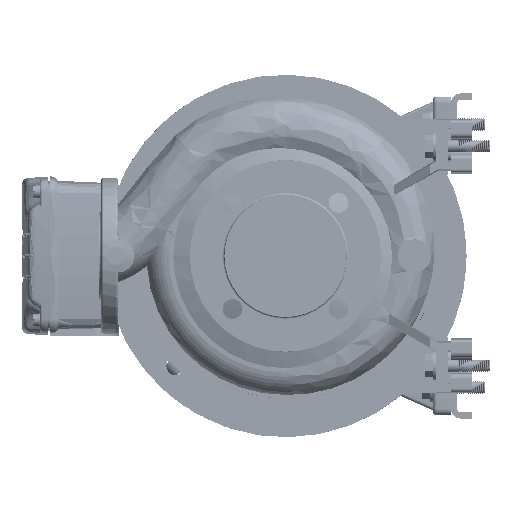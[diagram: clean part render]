
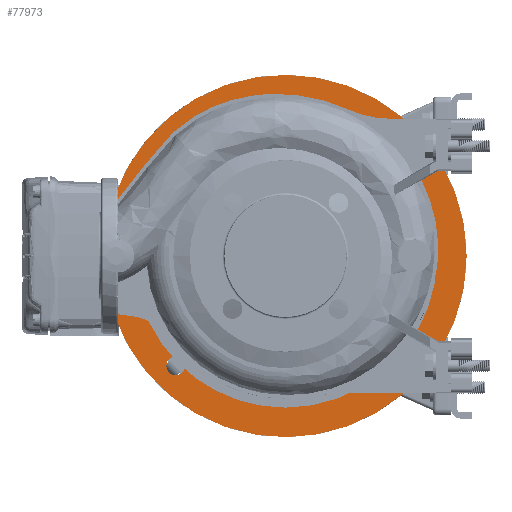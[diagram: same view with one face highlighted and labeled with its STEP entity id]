
A CAD part, left-side view. The second image highlights one B-rep face of the part: STEP entity #77973.
In plain terms, the highlighted planar face has unit normal (-1, 0, 0).
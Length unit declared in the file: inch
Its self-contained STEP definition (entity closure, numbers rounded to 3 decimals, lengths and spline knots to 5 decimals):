
#2432 = VERTEX_POINT ( 'NONE', #157049 ) ;
#3138 = CARTESIAN_POINT ( 'NONE',  ( 8.25941, 13.3386, 7.17662 ) ) ;
#4709 = ORIENTED_EDGE ( 'NONE', *, *, #20756, .T. ) ;
#5355 = DIRECTION ( 'NONE',  ( -1., 0., 0. ) ) ;
#7170 = CIRCLE ( 'NONE', #164534, 5.02675 ) ;
#7363 = ORIENTED_EDGE ( 'NONE', *, *, #147604, .T. ) ;
#8231 = EDGE_LOOP ( 'NONE', ( #103370, #57713 ) ) ;
#9100 = DIRECTION ( 'NONE',  ( 0., 0., -1. ) ) ;
#10065 = AXIS2_PLACEMENT_3D ( 'NONE', #41170, #213034, #144332 ) ;
#10208 = CIRCLE ( 'NONE', #10065, 0.35433 ) ;
#15244 = FACE_OUTER_BOUND ( 'NONE', #8231, .T. ) ;
#15247 = AXIS2_PLACEMENT_3D ( 'NONE', #135279, #206278, #48203 ) ;
#17006 = CARTESIAN_POINT ( 'NONE',  ( 8.25941, 9.16399, 16.38012 ) ) ;
#17849 = DIRECTION ( 'NONE',  ( 0., 0., -1. ) ) ;
#19015 = CARTESIAN_POINT ( 'NONE',  ( 8.25941, 13.3386, 15.53012 ) ) ;
#20756 = EDGE_CURVE ( 'NONE', #90515, #145406, #7170, .T. ) ;
#24279 = CARTESIAN_POINT ( 'NONE',  ( 8.25941, 4.98938, 7.53095 ) ) ;
#24517 = VERTEX_POINT ( 'NONE', #24279 ) ;
#27100 = AXIS2_PLACEMENT_3D ( 'NONE', #52267, #174892, #17849 ) ;
#30693 = EDGE_CURVE ( 'NONE', #224288, #2432, #125929, .T. ) ;
#32029 = DIRECTION ( 'NONE',  ( 0., 0., -1. ) ) ;
#32357 = AXIS2_PLACEMENT_3D ( 'NONE', #212989, #93853, #91559 ) ;
#33791 = DIRECTION ( 'NONE',  ( 1., 0., 0. ) ) ;
#35609 = CIRCLE ( 'NONE', #189407, 0.35433 ) ;
#36051 = DIRECTION ( 'NONE',  ( 0., 0., 1. ) ) ;
#41170 = CARTESIAN_POINT ( 'NONE',  ( 8.25941, 13.3386, 15.53012 ) ) ;
#43317 = CARTESIAN_POINT ( 'NONE',  ( 8.25941, 13.3386, 15.17579 ) ) ;
#44201 = ORIENTED_EDGE ( 'NONE', *, *, #115915, .T. ) ;
#45370 = CARTESIAN_POINT ( 'NONE',  ( 8.25941, 4.18012, 10.69818 ) ) ;
#47610 = ORIENTED_EDGE ( 'NONE', *, *, #179063, .F. ) ;
#48203 = DIRECTION ( 'NONE',  ( 0., 0., -1. ) ) ;
#49644 = VERTEX_POINT ( 'NONE', #177693 ) ;
#49663 = EDGE_LOOP ( 'NONE', ( #47610, #118018 ) ) ;
#51027 = VERTEX_POINT ( 'NONE', #119160 ) ;
#51912 = DIRECTION ( 'NONE',  ( 0., 0., 1. ) ) ;
#52267 = CARTESIAN_POINT ( 'NONE',  ( 8.25941, 9.16399, 11.35337 ) ) ;
#57713 = ORIENTED_EDGE ( 'NONE', *, *, #211803, .F. ) ;
#59426 = AXIS2_PLACEMENT_3D ( 'NONE', #118706, #64841, #132457 ) ;
#60645 = EDGE_CURVE ( 'NONE', #145406, #179139, #154100, .T. ) ;
#62487 = VERTEX_POINT ( 'NONE', #169414 ) ;
#63885 = DIRECTION ( 'NONE',  ( 1., 0., 0. ) ) ;
#64841 = DIRECTION ( 'NONE',  ( -1., 0., 0. ) ) ;
#67402 = DIRECTION ( 'NONE',  ( 0., 0., 1. ) ) ;
#68255 = AXIS2_PLACEMENT_3D ( 'NONE', #84476, #63885, #115508 ) ;
#77731 = ORIENTED_EDGE ( 'NONE', *, *, #60645, .T. ) ;
#77973 = ADVANCED_FACE ( 'NONE', ( #15244, #192844, #141261, #176751, #159569, #87407 ), #85153, .T. ) ;
#79877 = CARTESIAN_POINT ( 'NONE',  ( 8.25941, 4.98938, 6.82229 ) ) ;
#81264 = CARTESIAN_POINT ( 'NONE',  ( 8.25941, 9.16399, 11.35337 ) ) ;
#84476 = CARTESIAN_POINT ( 'NONE',  ( 8.25941, 4.98938, 7.17662 ) ) ;
#84589 = DIRECTION ( 'NONE',  ( 1., 0., 0. ) ) ;
#85153 = PLANE ( 'NONE',  #202393 ) ;
#87369 = CIRCLE ( 'NONE', #134980, 0.35433 ) ;
#87407 = FACE_BOUND ( 'NONE', #89829, .T. ) ;
#88628 = CARTESIAN_POINT ( 'NONE',  ( 8.25941, 4.18012, 12.00856 ) ) ;
#89583 = EDGE_CURVE ( 'NONE', #62487, #213425, #87369, .T. ) ;
#89829 = EDGE_LOOP ( 'NONE', ( #77731, #153376, #218978, #4709 ) ) ;
#90515 = VERTEX_POINT ( 'NONE', #17006 ) ;
#90679 = VERTEX_POINT ( 'NONE', #79877 ) ;
#91501 = AXIS2_PLACEMENT_3D ( 'NONE', #3138, #156785, #226643 ) ;
#91559 = DIRECTION ( 'NONE',  ( 0., 0., -1. ) ) ;
#93853 = DIRECTION ( 'NONE',  ( 1., 0., 0. ) ) ;
#103370 = ORIENTED_EDGE ( 'NONE', *, *, #30693, .F. ) ;
#115030 = EDGE_CURVE ( 'NONE', #51027, #206248, #35609, .T. ) ;
#115508 = DIRECTION ( 'NONE',  ( 0., 0., 1. ) ) ;
#115915 = EDGE_CURVE ( 'NONE', #90679, #24517, #123633, .T. ) ;
#116559 = EDGE_CURVE ( 'NONE', #179139, #215970, #175006, .T. ) ;
#118018 = ORIENTED_EDGE ( 'NONE', *, *, #89583, .F. ) ;
#118706 = CARTESIAN_POINT ( 'NONE',  ( 8.25941, 13.3386, 7.17662 ) ) ;
#119035 = CIRCLE ( 'NONE', #199483, 0.35433 ) ;
#119160 = CARTESIAN_POINT ( 'NONE',  ( 8.25941, 13.3386, 15.88445 ) ) ;
#123633 = CIRCLE ( 'NONE', #171259, 0.35433 ) ;
#125564 = DIRECTION ( 'NONE',  ( 1., 0., 0. ) ) ;
#125929 = CIRCLE ( 'NONE', #27100, 6.88976 ) ;
#127499 = DIRECTION ( 'NONE',  ( -1., 0., 0. ) ) ;
#127696 = CIRCLE ( 'NONE', #215486, 5.02675 ) ;
#128384 = AXIS2_PLACEMENT_3D ( 'NONE', #222118, #84589, #67402 ) ;
#132457 = DIRECTION ( 'NONE',  ( 0., 0., 1. ) ) ;
#133829 = CARTESIAN_POINT ( 'NONE',  ( 8.25941, 13.3386, 6.82229 ) ) ;
#134980 = AXIS2_PLACEMENT_3D ( 'NONE', #161868, #127499, #213363 ) ;
#135279 = CARTESIAN_POINT ( 'NONE',  ( 8.25941, 9.16399, 11.35337 ) ) ;
#137759 = CIRCLE ( 'NONE', #68255, 0.35433 ) ;
#141261 = FACE_BOUND ( 'NONE', #49663, .T. ) ;
#141623 = ORIENTED_EDGE ( 'NONE', *, *, #191341, .F. ) ;
#144332 = DIRECTION ( 'NONE',  ( 0., 0., -1. ) ) ;
#145406 = VERTEX_POINT ( 'NONE', #88628 ) ;
#147604 = EDGE_CURVE ( 'NONE', #206248, #51027, #10208, .T. ) ;
#153376 = ORIENTED_EDGE ( 'NONE', *, *, #116559, .T. ) ;
#154100 = CIRCLE ( 'NONE', #128384, 0.9252 ) ;
#156785 = DIRECTION ( 'NONE',  ( -1., 0., 0. ) ) ;
#157049 = CARTESIAN_POINT ( 'NONE',  ( 8.25941, 9.16399, 18.24313 ) ) ;
#159569 = FACE_BOUND ( 'NONE', #171691, .T. ) ;
#159947 = ORIENTED_EDGE ( 'NONE', *, *, #212481, .F. ) ;
#161868 = CARTESIAN_POINT ( 'NONE',  ( 8.25941, 4.98938, 15.53012 ) ) ;
#164534 = AXIS2_PLACEMENT_3D ( 'NONE', #81264, #223293, #9100 ) ;
#165450 = CIRCLE ( 'NONE', #15247, 6.88976 ) ;
#169414 = CARTESIAN_POINT ( 'NONE',  ( 8.25941, 4.98938, 15.88445 ) ) ;
#170316 = CARTESIAN_POINT ( 'NONE',  ( 8.25941, 4.98938, 15.17579 ) ) ;
#171037 = EDGE_LOOP ( 'NONE', ( #7363, #188441 ) ) ;
#171259 = AXIS2_PLACEMENT_3D ( 'NONE', #193049, #33791, #36051 ) ;
#171691 = EDGE_LOOP ( 'NONE', ( #222312, #44201 ) ) ;
#172035 = CIRCLE ( 'NONE', #91501, 0.35433 ) ;
#172904 = VERTEX_POINT ( 'NONE', #133829 ) ;
#173395 = CARTESIAN_POINT ( 'NONE',  ( 8.25941, 16.05375, 11.35337 ) ) ;
#174892 = DIRECTION ( 'NONE',  ( 1., 0., 0. ) ) ;
#175006 = CIRCLE ( 'NONE', #32357, 5.02675 ) ;
#176041 = DIRECTION ( 'NONE',  ( 0., 0., -1. ) ) ;
#176751 = FACE_BOUND ( 'NONE', #209428, .T. ) ;
#177693 = CARTESIAN_POINT ( 'NONE',  ( 8.25941, 13.3386, 7.53095 ) ) ;
#179063 = EDGE_CURVE ( 'NONE', #213425, #62487, #119035, .T. ) ;
#179139 = VERTEX_POINT ( 'NONE', #45370 ) ;
#184478 = CARTESIAN_POINT ( 'NONE',  ( 8.25941, 9.16399, 4.46361 ) ) ;
#184480 = CARTESIAN_POINT ( 'NONE',  ( 8.25941, 9.16399, 11.35337 ) ) ;
#185635 = CARTESIAN_POINT ( 'NONE',  ( 8.25941, 9.16399, 6.32662 ) ) ;
#188441 = ORIENTED_EDGE ( 'NONE', *, *, #115030, .T. ) ;
#189407 = AXIS2_PLACEMENT_3D ( 'NONE', #19015, #125564, #176041 ) ;
#191341 = EDGE_CURVE ( 'NONE', #172904, #49644, #172035, .T. ) ;
#192844 = FACE_BOUND ( 'NONE', #171037, .T. ) ;
#193049 = CARTESIAN_POINT ( 'NONE',  ( 8.25941, 4.98938, 7.17662 ) ) ;
#194820 = CIRCLE ( 'NONE', #59426, 0.35433 ) ;
#199483 = AXIS2_PLACEMENT_3D ( 'NONE', #201195, #5355, #200079 ) ;
#200079 = DIRECTION ( 'NONE',  ( 0., 0., -1. ) ) ;
#201195 = CARTESIAN_POINT ( 'NONE',  ( 8.25941, 4.98938, 15.53012 ) ) ;
#202393 = AXIS2_PLACEMENT_3D ( 'NONE', #173395, #226078, #51912 ) ;
#204924 = EDGE_CURVE ( 'NONE', #24517, #90679, #137759, .T. ) ;
#205862 = EDGE_CURVE ( 'NONE', #215970, #90515, #127696, .T. ) ;
#206248 = VERTEX_POINT ( 'NONE', #43317 ) ;
#206278 = DIRECTION ( 'NONE',  ( 1., 0., 0. ) ) ;
#209428 = EDGE_LOOP ( 'NONE', ( #159947, #141623 ) ) ;
#211803 = EDGE_CURVE ( 'NONE', #2432, #224288, #165450, .T. ) ;
#212481 = EDGE_CURVE ( 'NONE', #49644, #172904, #194820, .T. ) ;
#212989 = CARTESIAN_POINT ( 'NONE',  ( 8.25941, 9.16399, 11.35337 ) ) ;
#213034 = DIRECTION ( 'NONE',  ( 1., 0., 0. ) ) ;
#213363 = DIRECTION ( 'NONE',  ( 0., 0., -1. ) ) ;
#213425 = VERTEX_POINT ( 'NONE', #170316 ) ;
#215486 = AXIS2_PLACEMENT_3D ( 'NONE', #184480, #219952, #32029 ) ;
#215970 = VERTEX_POINT ( 'NONE', #185635 ) ;
#218978 = ORIENTED_EDGE ( 'NONE', *, *, #205862, .T. ) ;
#219952 = DIRECTION ( 'NONE',  ( 1., 0., 0. ) ) ;
#222118 = CARTESIAN_POINT ( 'NONE',  ( 8.25941, 4.83336, 11.35337 ) ) ;
#222312 = ORIENTED_EDGE ( 'NONE', *, *, #204924, .T. ) ;
#223293 = DIRECTION ( 'NONE',  ( 1., 0., 0. ) ) ;
#224288 = VERTEX_POINT ( 'NONE', #184478 ) ;
#226078 = DIRECTION ( 'NONE',  ( -1., 0., 0. ) ) ;
#226643 = DIRECTION ( 'NONE',  ( 0., 0., 1. ) ) ;
